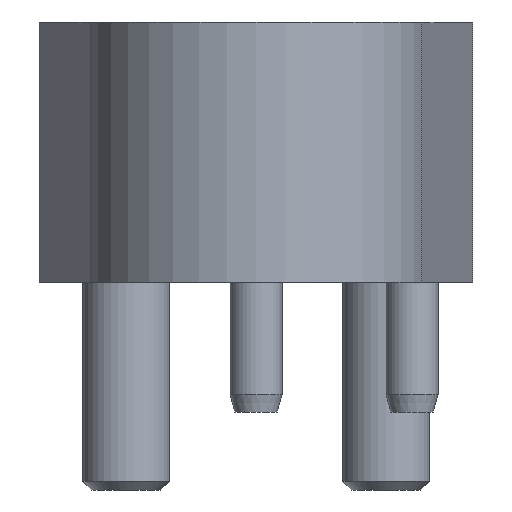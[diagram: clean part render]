
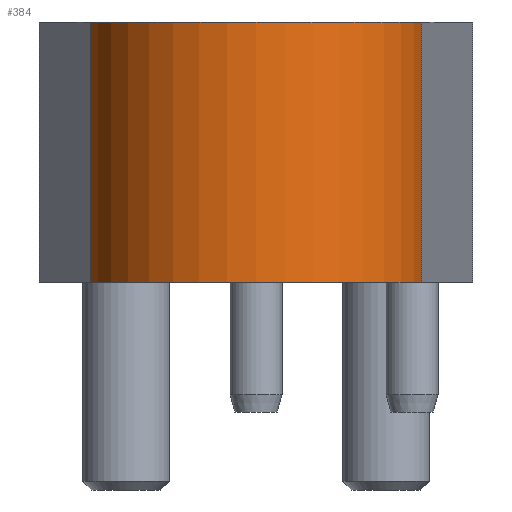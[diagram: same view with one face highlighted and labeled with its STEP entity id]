
A CAD part, left-side view. The second image highlights one B-rep face of the part: STEP entity #384.
In plain terms, the highlighted cylindrical face has radius 19.5 mm (diameter 39 mm), a partial arc.
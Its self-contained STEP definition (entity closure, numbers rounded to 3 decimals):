
#117=CYLINDRICAL_SURFACE('',#2266,19.5);
#246=CIRCLE('',#2264,19.5);
#247=CIRCLE('',#2265,19.5);
#384=ADVANCED_FACE('',(#577),#117,.T.);
#577=FACE_OUTER_BOUND('',#699,.T.);
#699=EDGE_LOOP('',(#955,#956,#957,#958));
#955=ORIENTED_EDGE('',*,*,#1661,.T.);
#956=ORIENTED_EDGE('',*,*,#1662,.F.);
#957=ORIENTED_EDGE('',*,*,#1663,.F.);
#958=ORIENTED_EDGE('',*,*,#1664,.T.);
#1451=VERTEX_POINT('',#3297);
#1452=VERTEX_POINT('',#3298);
#1453=VERTEX_POINT('',#3300);
#1454=VERTEX_POINT('',#3302);
#1661=EDGE_CURVE('',#1451,#1452,#1937,.T.);
#1662=EDGE_CURVE('',#1453,#1452,#246,.T.);
#1663=EDGE_CURVE('',#1454,#1453,#1938,.T.);
#1664=EDGE_CURVE('',#1454,#1451,#247,.T.);
#1937=LINE('',#3296,#2101);
#1938=LINE('',#3301,#2102);
#2101=VECTOR('',#2619,1.);
#2102=VECTOR('',#2622,1.);
#2264=AXIS2_PLACEMENT_3D('',#3299,#2620,#2621);
#2265=AXIS2_PLACEMENT_3D('',#3303,#2623,#2624);
#2266=AXIS2_PLACEMENT_3D('',#3304,#2625,#2626);
#2619=DIRECTION('',(0.,0.,1.));
#2620=DIRECTION('',(0.,0.,1.));
#2621=DIRECTION('',(0.,1.,0.));
#2622=DIRECTION('',(0.,0.,1.));
#2623=DIRECTION('',(0.,0.,1.));
#2624=DIRECTION('',(0.,1.,0.));
#2625=DIRECTION('',(0.,0.,1.));
#2626=DIRECTION('',(-1.,0.,0.));
#3296=CARTESIAN_POINT('',(-3.771,-19.132,0.));
#3297=CARTESIAN_POINT('',(-3.771,-19.132,0.));
#3298=CARTESIAN_POINT('',(-3.771,-19.132,30.));
#3299=CARTESIAN_POINT('',(0.,0.,30.));
#3300=CARTESIAN_POINT('',(-3.771,19.132,30.));
#3301=CARTESIAN_POINT('',(-3.771,19.132,0.));
#3302=CARTESIAN_POINT('',(-3.771,19.132,0.));
#3303=CARTESIAN_POINT('',(0.,0.,0.));
#3304=CARTESIAN_POINT('',(0.,0.,0.));
